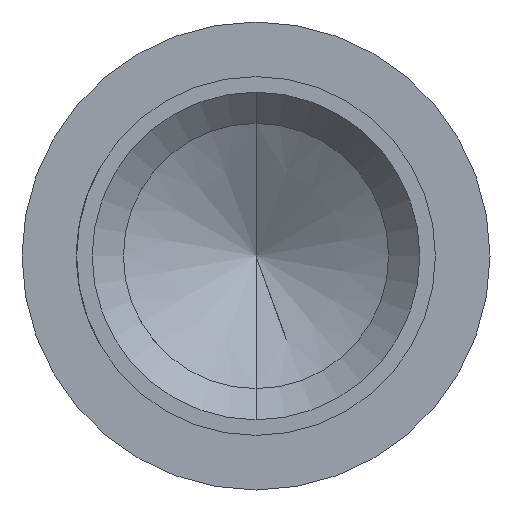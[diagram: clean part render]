
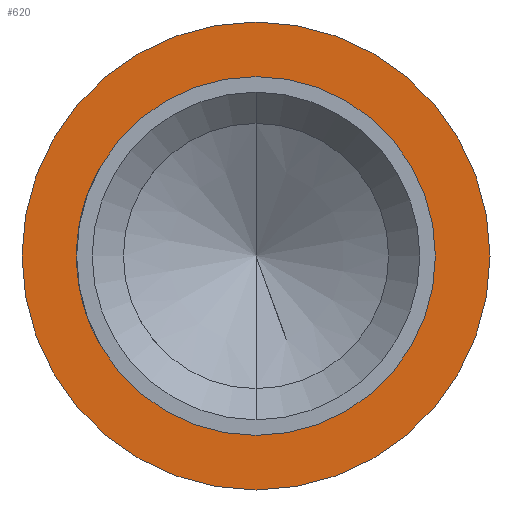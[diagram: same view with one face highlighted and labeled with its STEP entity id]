
A CAD part, front view. The second image highlights one B-rep face of the part: STEP entity #620.
In plain terms, the highlighted planar face has unit normal (0, -1, 0).
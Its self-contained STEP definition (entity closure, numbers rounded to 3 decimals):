
#107=CARTESIAN_POINT('',(0.,58.786,0.));
#108=DIRECTION('',(0.,-1.,0.));
#109=DIRECTION('',(0.,0.,-1.));
#110=AXIS2_PLACEMENT_3D('',#107,#108,#109);
#120=CARTESIAN_POINT('',(0.,58.786,0.));
#121=DIRECTION('',(0.,1.,0.));
#122=DIRECTION('',(0.,0.,-1.));
#123=AXIS2_PLACEMENT_3D('',#120,#121,#122);
#125=CARTESIAN_POINT('',(0.,58.786,0.));
#126=DIRECTION('',(0.,-1.,0.));
#127=DIRECTION('',(0.,0.,-1.));
#128=AXIS2_PLACEMENT_3D('',#125,#126,#127);
#130=CARTESIAN_POINT('',(0.,58.786,0.));
#131=DIRECTION('',(0.,1.,0.));
#132=DIRECTION('',(0.,0.,-1.));
#133=AXIS2_PLACEMENT_3D('',#130,#131,#132);
#326=CARTESIAN_POINT('',(0.,58.786,-0.4));
#328=VERTEX_POINT('',#326);
#329=CARTESIAN_POINT('',(0.,58.786,-0.75));
#331=VERTEX_POINT('',#329);
#356=CARTESIAN_POINT('',(0.,58.786,0.4));
#358=VERTEX_POINT('',#356);
#359=CARTESIAN_POINT('',(0.,58.786,0.75));
#361=VERTEX_POINT('',#359);
#605=CARTESIAN_POINT('',(0.,58.786,0.));
#606=DIRECTION('',(0.,-1.,0.));
#607=DIRECTION('',(0.,0.,1.));
#608=AXIS2_PLACEMENT_3D('',#605,#606,#607);
#609=PLANE('',#608);
#610=ORIENTED_EDGE('',*,*,#600,.T.);
#611=ORIENTED_EDGE('',*,*,#584,.F.);
#612=EDGE_LOOP('',(#610,#611));
#613=FACE_OUTER_BOUND('',#612,.F.);
#615=ORIENTED_EDGE('',*,*,#614,.T.);
#617=ORIENTED_EDGE('',*,*,#616,.F.);
#618=EDGE_LOOP('',(#615,#617));
#619=FACE_BOUND('',#618,.F.);
#620=ADVANCED_FACE('',(#613,#619),#609,.T.);
#111=CIRCLE('',#110,0.75);
#124=CIRCLE('',#123,0.75);
#129=CIRCLE('',#128,0.4);
#134=CIRCLE('',#133,0.4);
#584=EDGE_CURVE('',#331,#361,#111,.T.);
#600=EDGE_CURVE('',#331,#361,#124,.T.);
#614=EDGE_CURVE('',#328,#358,#129,.T.);
#616=EDGE_CURVE('',#328,#358,#134,.T.);
